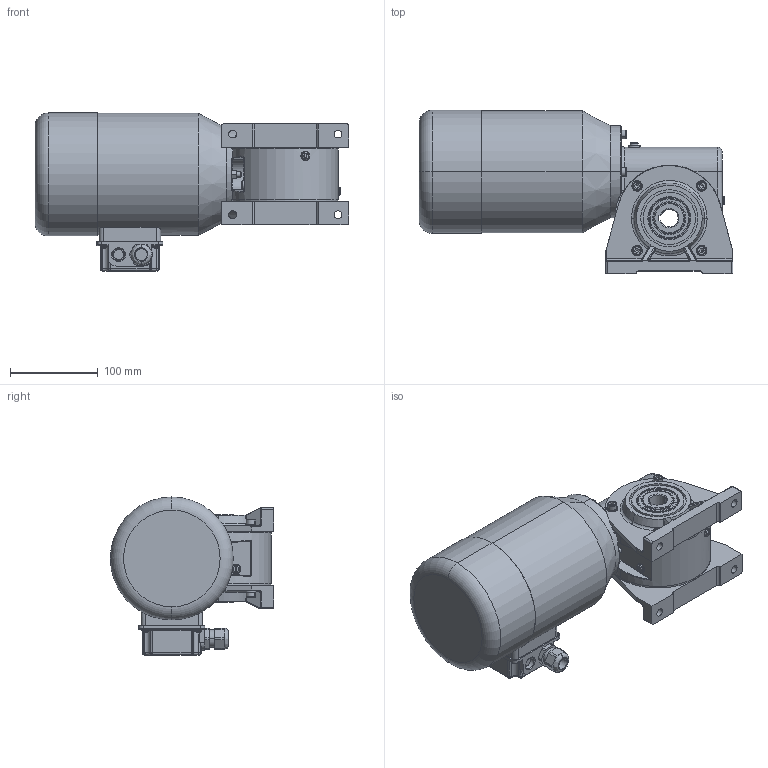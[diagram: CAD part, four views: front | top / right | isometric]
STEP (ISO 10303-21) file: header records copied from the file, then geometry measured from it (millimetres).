
FILE_DESCRIPTION (( 'STEP AP214' ), '1' );
FILE_NAME ('SN8BFH_250W_1400Upm_Drehstrom-Motor_A.STEP', '2021-07-23T09:04:42', ( '' ), ( '' ), 'SwSTEP 2.0', 'SolidWorks 2019', '' );
FILE_SCHEMA (( 'AUTOMOTIVE_DESIGN' ));
Length unit declared in the file: millimetre
Products named in the file (13): Kupferscheibe Ø6x12x1,5 DIN7603 A; socket set screw flat point_din_DIN 913 - M6 x 25-C; slotted pan head screw_din_DIN EN ISO 1580 - M5 x 6 - 6C; SN8BFH_250W_1400Upm_Drehstrom-Motor_A; 08B-G-003_3D_Export; U-Seal Ring Ø5; 08SHH-D-001_3D_Export; 08-M-165 I 250W_1400Upm; hex nut style 1 gradeab_din_Hexagon Nut ISO 4032 - M6 - D - C; 08FH-W-001_3D_Export; NBR_WDR_35x47x7; socket head cap screw_din_DIN 912 M6 x 20 --- 20C; SN8SHH_3D_Export
Assembly tree (37 placements, depth 3):
  SN8BFH_250W_1400Upm_Drehstrom-Motor_A
    SN8SHH_3D_Export
      08B-G-003_3D_Export
      08FH-W-001_3D_Export
      08SHH-D-001_3D_Export  x2
      NBR_WDR_35x47x7  x2
      socket head cap screw_din_DIN 912 M6 x 20 --- 20C  x11
      slotted pan head screw_din_DIN EN ISO 1580 - M5 x 6 - 6C  x4
      socket set screw flat point_din_DIN 913 - M6 x 25-C
      hex nut style 1 gradeab_din_Hexagon Nut ISO 4032 - M6 - D - C
      Kupferscheibe Ø6x12x1,5 DIN7603 A  x8
      U-Seal Ring Ø5  x4
    08-M-165 I 250W_1400Upm
Bounding box: 357.5 x 186 x 180 mm (x, y, z)
Volume: 4584033.6 mm3; surface area: 367539.4 mm2
Topology: 38 solids, 38 shells, 1453 faces, 3495 edges, 2158 vertices
Faces by surface type: plane 479, cylinder 465, torus 200, cone 191, bspline 94, sphere 24
Entity records: 32691 total; most frequent: CARTESIAN_POINT 9444, DIRECTION 4862, ORIENTED_EDGE 4680, EDGE_CURVE 2340, AXIS2_PLACEMENT_3D 1986, VERTEX_POINT 1483, CIRCLE 1080, EDGE_LOOP 1035
